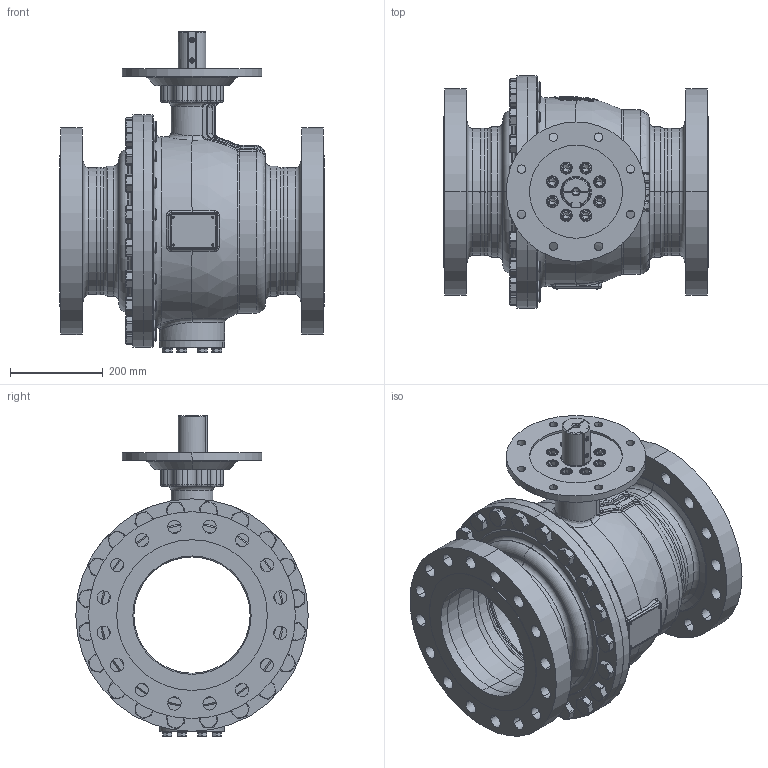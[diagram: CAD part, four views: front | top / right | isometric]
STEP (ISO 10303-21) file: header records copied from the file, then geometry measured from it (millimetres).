
FILE_DESCRIPTION((''),'2;1');
FILE_NAME('KHI-F_250_CL300-F25-P_SW0001','2026-02-05T14:32:25',('fischerkl'),('KLINGER'),'CREO PARAMETRIC BY PTC INC, 2023014','CREO PARAMETRIC BY PTC INC, 2023014','');
FILE_SCHEMA(('CONFIG_CONTROL_DESIGN'));
Products named in the file (1): KHI-F_250_CL300-F25-P_SW0001
Bounding box: 568 x 500 x 689.8 mm (x, y, z)
Volume: 27005848.6 mm3; surface area: 3670113.3 mm2
Topology: 1 solids, 4 shells, 3300 faces, 8345 edges, 5200 vertices
Faces by surface type: plane 1684, cylinder 786, cone 389, torus 314, bspline 97, sphere 30
Entity records: 134832 total; most frequent: CARTESIAN_POINT 56327, ORIENTED_EDGE 16630, DIRECTION 16148, EDGE_CURVE 8315, AXIS2_PLACEMENT_3D 6108, VERTEX_POINT 5200, VECTOR 3932, LINE 3932
